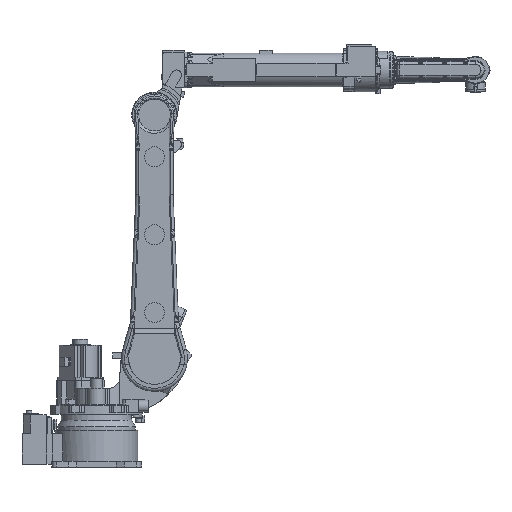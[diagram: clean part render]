
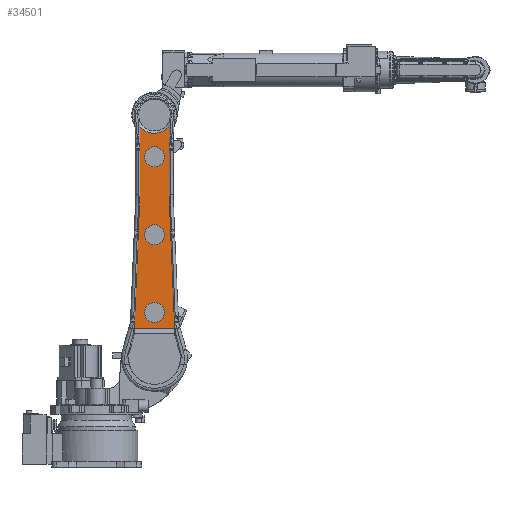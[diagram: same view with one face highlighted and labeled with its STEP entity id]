
A CAD part, front view. The second image highlights one B-rep face of the part: STEP entity #34501.
In plain terms, the highlighted planar face has unit normal (0.005, -1, 0).
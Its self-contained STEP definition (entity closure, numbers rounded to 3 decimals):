
#1766=FACE_BOUND('',#5312,.T.);
#1767=FACE_BOUND('',#5313,.T.);
#1768=FACE_BOUND('',#5314,.T.);
#2104=PLANE('',#37033);
#3312=FACE_OUTER_BOUND('',#5311,.T.);
#5311=EDGE_LOOP('',(#24872,#24873,#24874,#24875,#24876,#24877));
#5312=EDGE_LOOP('',(#24878,#24879));
#5313=EDGE_LOOP('',(#24880,#24881));
#5314=EDGE_LOOP('',(#24882,#24883));
#7423=LINE('',#53447,#9894);
#7485=LINE('',#53700,#9956);
#7491=LINE('',#53719,#9962);
#7502=LINE('',#53758,#9973);
#7615=LINE('',#56105,#10086);
#9894=VECTOR('',#41478,10.);
#9956=VECTOR('',#41726,10.);
#9962=VECTOR('',#41750,10.);
#9973=VECTOR('',#41771,10.);
#10086=VECTOR('',#42452,10.);
#12136=CIRCLE('',#37031,92.5);
#12137=CIRCLE('',#37034,50.);
#12138=CIRCLE('',#37035,50.);
#12139=CIRCLE('',#37036,50.);
#12140=CIRCLE('',#37037,50.);
#12141=CIRCLE('',#37038,50.);
#12142=CIRCLE('',#37039,50.);
#13966=VERTEX_POINT('',#53442);
#13967=VERTEX_POINT('',#53446);
#14024=VERTEX_POINT('',#53697);
#14025=VERTEX_POINT('',#53699);
#14029=VERTEX_POINT('',#53718);
#14038=VERTEX_POINT('',#53757);
#14230=VERTEX_POINT('',#56106);
#14231=VERTEX_POINT('',#56107);
#14232=VERTEX_POINT('',#56110);
#14233=VERTEX_POINT('',#56111);
#14234=VERTEX_POINT('',#56114);
#14235=VERTEX_POINT('',#56115);
#17601=EDGE_CURVE('',#13966,#13967,#7423,.T.);
#17716=EDGE_CURVE('',#14025,#14024,#7485,.T.);
#17725=EDGE_CURVE('',#13967,#14029,#7491,.T.);
#17737=EDGE_CURVE('',#14038,#14025,#7502,.T.);
#18074=EDGE_CURVE('',#14038,#13966,#12136,.T.);
#18075=EDGE_CURVE('',#14024,#14029,#7615,.T.);
#18076=EDGE_CURVE('',#14230,#14231,#12137,.T.);
#18077=EDGE_CURVE('',#14231,#14230,#12138,.T.);
#18078=EDGE_CURVE('',#14232,#14233,#12139,.T.);
#18079=EDGE_CURVE('',#14233,#14232,#12140,.T.);
#18080=EDGE_CURVE('',#14234,#14235,#12141,.T.);
#18081=EDGE_CURVE('',#14235,#14234,#12142,.T.);
#24872=ORIENTED_EDGE('',*,*,#18074,.F.);
#24873=ORIENTED_EDGE('',*,*,#17737,.T.);
#24874=ORIENTED_EDGE('',*,*,#17716,.T.);
#24875=ORIENTED_EDGE('',*,*,#18075,.T.);
#24876=ORIENTED_EDGE('',*,*,#17725,.F.);
#24877=ORIENTED_EDGE('',*,*,#17601,.F.);
#24878=ORIENTED_EDGE('',*,*,#18076,.T.);
#24879=ORIENTED_EDGE('',*,*,#18077,.T.);
#24880=ORIENTED_EDGE('',*,*,#18078,.T.);
#24881=ORIENTED_EDGE('',*,*,#18079,.T.);
#24882=ORIENTED_EDGE('',*,*,#18080,.T.);
#24883=ORIENTED_EDGE('',*,*,#18081,.T.);
#34501=ADVANCED_FACE('',(#3312,#1766,#1767,#1768),#2104,.T.);
#37031=AXIS2_PLACEMENT_3D('',#56102,#42446,#42447);
#37033=AXIS2_PLACEMENT_3D('',#56104,#42450,#42451);
#37034=AXIS2_PLACEMENT_3D('',#56108,#42453,#42454);
#37035=AXIS2_PLACEMENT_3D('',#56109,#42455,#42456);
#37036=AXIS2_PLACEMENT_3D('',#56112,#42457,#42458);
#37037=AXIS2_PLACEMENT_3D('',#56113,#42459,#42460);
#37038=AXIS2_PLACEMENT_3D('',#56116,#42461,#42462);
#37039=AXIS2_PLACEMENT_3D('',#56117,#42463,#42464);
#41478=DIRECTION('',(0.,0.,-1.));
#41726=DIRECTION('',(-0.042,0.,-0.999));
#41750=DIRECTION('',(0.042,0.,-0.999));
#41771=DIRECTION('',(0.,0.,-1.));
#42446=DIRECTION('center_axis',(0.005,-1.,0.));
#42447=DIRECTION('ref_axis',(0.,0.,
-1.));
#42450=DIRECTION('center_axis',(0.005,-1.,0.));
#42451=DIRECTION('ref_axis',(0.,0.,1.));
#42452=DIRECTION('',(1.,0.005,0.));
#42453=DIRECTION('center_axis',(-0.005,1.,0.));
#42454=DIRECTION('ref_axis',(0.,0.,1.));
#42455=DIRECTION('center_axis',(-0.005,1.,0.));
#42456=DIRECTION('ref_axis',(0.,0.,1.));
#42457=DIRECTION('center_axis',(-0.005,1.,0.));
#42458=DIRECTION('ref_axis',(0.,0.,1.));
#42459=DIRECTION('center_axis',(-0.005,1.,0.));
#42460=DIRECTION('ref_axis',(0.,0.,1.));
#42461=DIRECTION('center_axis',(-0.005,1.,0.));
#42462=DIRECTION('ref_axis',(0.,0.,1.));
#42463=DIRECTION('center_axis',(-0.005,1.,0.));
#42464=DIRECTION('ref_axis',(0.,0.,1.));
#53442=CARTESIAN_POINT('',(363.822,-169.245,1709.191));
#53446=CARTESIAN_POINT('',(363.822,-169.245,1365.578));
#53447=CARTESIAN_POINT('',(363.822,-169.245,1163.051));
#53697=CARTESIAN_POINT('',(189.455,-170.087,694.));
#53699=CARTESIAN_POINT('',(217.823,-169.95,1365.578));
#53700=CARTESIAN_POINT('',(200.609,-170.033,958.058));
#53718=CARTESIAN_POINT('',(392.19,-169.108,694.));
#53719=CARTESIAN_POINT('',(381.036,-169.162,958.058));
#53757=CARTESIAN_POINT('',(217.823,-169.95,1709.191));
#53758=CARTESIAN_POINT('',(217.823,-169.95,1163.051));
#56102=CARTESIAN_POINT('Origin',(290.823,-169.597,1766.));
#56104=CARTESIAN_POINT('Origin',(290.823,-169.597,546.));
#56105=CARTESIAN_POINT('',(341.507,-169.353,694.));
#56106=CARTESIAN_POINT('',(290.823,-169.597,826.));
#56107=CARTESIAN_POINT('',(290.823,-169.597,726.));
#56108=CARTESIAN_POINT('Origin',(290.823,-169.597,776.));
#56109=CARTESIAN_POINT('Origin',(290.823,-169.597,776.));
#56110=CARTESIAN_POINT('',(290.823,-169.597,1216.));
#56111=CARTESIAN_POINT('',(290.823,-169.597,1116.));
#56112=CARTESIAN_POINT('Origin',(290.823,-169.597,1166.));
#56113=CARTESIAN_POINT('Origin',(290.823,-169.597,1166.));
#56114=CARTESIAN_POINT('',(290.823,-169.597,1606.));
#56115=CARTESIAN_POINT('',(290.823,-169.597,1506.));
#56116=CARTESIAN_POINT('Origin',(290.823,-169.597,1556.));
#56117=CARTESIAN_POINT('Origin',(290.823,-169.597,1556.));
